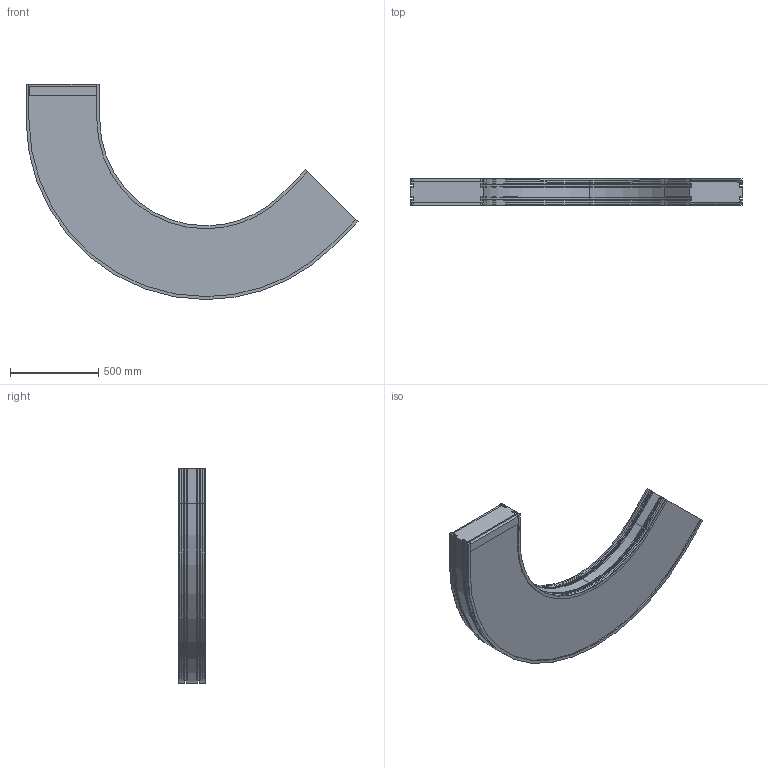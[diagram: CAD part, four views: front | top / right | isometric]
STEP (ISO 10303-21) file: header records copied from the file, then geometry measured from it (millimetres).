
FILE_DESCRIPTION (( 'STEP AP203' ), '1' );
FILE_NAME ('F2-1500-C135.STEP', '2009-02-16T12:23:06', ( 'faber' ), ( '' ), 'SwSTEP 2.0', 'SolidWorks 2008', '' );
FILE_SCHEMA (( 'CONFIG_CONTROL_DESIGN' ));
Length unit declared in the file: millimetre
Products named in the file (3): Tapis_1500; Courbe_1500; F2-1500-C135
Assembly tree (3 placements, depth 2):
  F2-1500-C135
    Courbe_1500
    Tapis_1500  x2
Bounding box: 1880.96 x 152.88 x 1219 mm (x, y, z)
Volume: 109801102.8 mm3; surface area: 4026929.4 mm2
Topology: 3 solids, 3 shells, 232 faces, 678 edges, 452 vertices
Faces by surface type: plane 148, cylinder 84
Entity records: 7743 total; most frequent: CARTESIAN_POINT 1318, ORIENTED_EDGE 1308, DIRECTION 1278, EDGE_CURVE 654, VECTOR 486, LINE 486, VERTEX_POINT 436, AXIS2_PLACEMENT_3D 396
